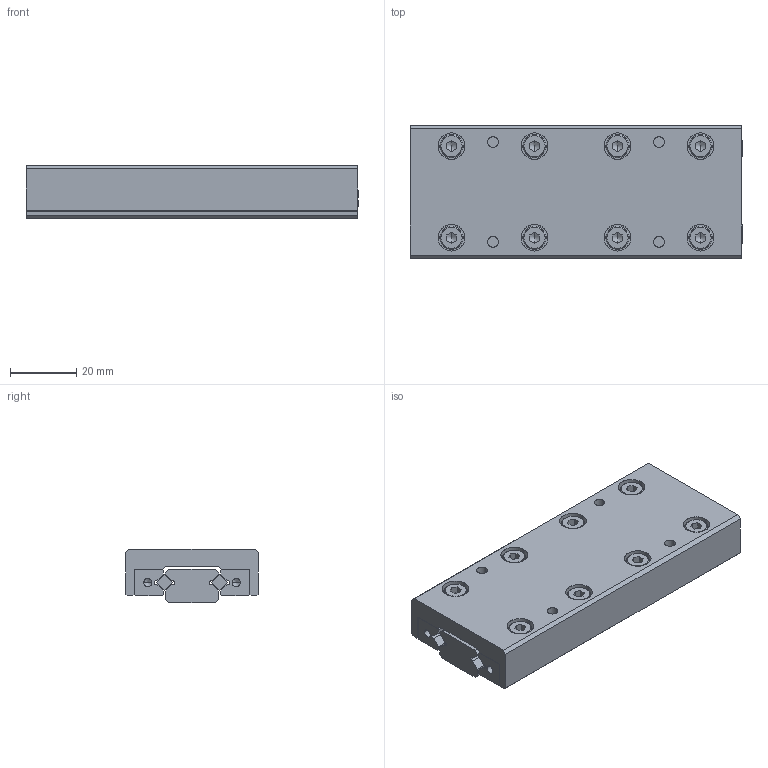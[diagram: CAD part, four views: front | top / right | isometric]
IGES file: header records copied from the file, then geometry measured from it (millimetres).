
Global section: file name: No Iges File Name specified; native system: AutoDesk Inventor R10; preprocessor: AutoDesk Inventor Iges Exporter R10; author: No Author specified; organization: No Organization specified; date: 20101224.112642; units: millimetre
Bounding box: 100 x 40 x 16 mm (x, y, z)
Surface area: 26258.5 mm2 (no closed solid volume)
Topology: 0 solids, 0 shells, 423 faces, 2576 edges, 2552 vertices
Faces by surface type: bspline 423
